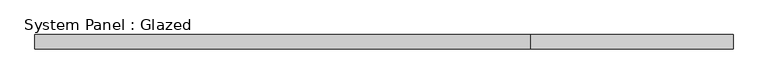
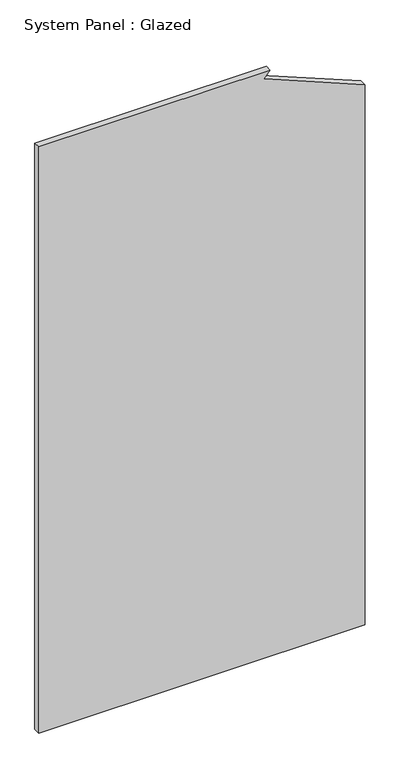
"""IFC4 building model written with IfcOpenShell, lengths in millimetres: plate geometry, System Panel : Glazed."""

from ifc_helpers import new_model, si_unit, frame, origin, place, context, project, spatial, polyline, outline, extrude, source, transform, mapped, element, save


def system_panel_glazed_72e0a84c(model_context):
    return source(origin(), model_context, "Body", "SweptSolid", [
        extrude(outline(polyline([(0.0, -625.475), (0.0, 625.475), (2189.0950481, 625.475), (2347.8915688, 237.9401732), (2374.9, 262.0170659), (2374.9, -625.475), (0.0, -625.475)])), frame((0.0, 19.05, 0.0), z_axis=(0.0, 1.0, 0.0), x_axis=(0.0, 0.0, 1.0)), (0.0, 0.0, 1.0), 25.4),
    ])


if __name__ == "__main__":
    model = new_model("IFC4")
    model_context = context("Model", 3, world=origin())
    ifc_project = project(units=[si_unit("LENGTHUNIT", "METRE", prefix="MILLI")], contexts=[model_context])
    site = spatial("IfcSite", under=ifc_project)
    building = spatial("IfcBuilding", under=site)
    placement = place(None, origin())
    system_panel_glazed_shape = system_panel_glazed_72e0a84c(model_context)
    element("IfcPlate", 1, ObjectType="System Panel : Glazed", at=placement, inside=building, context=model_context, shape_type="MappedRepresentation", body=[
        mapped(system_panel_glazed_shape, transform((0.0, 0.0, 0.0), x_axis=(1.0, 0.0, 0.0), y_axis=(0.0, 1.0, 0.0), z_axis=(0.0, 0.0, 1.0))),
    ])
    save(model, "model.ifc")
